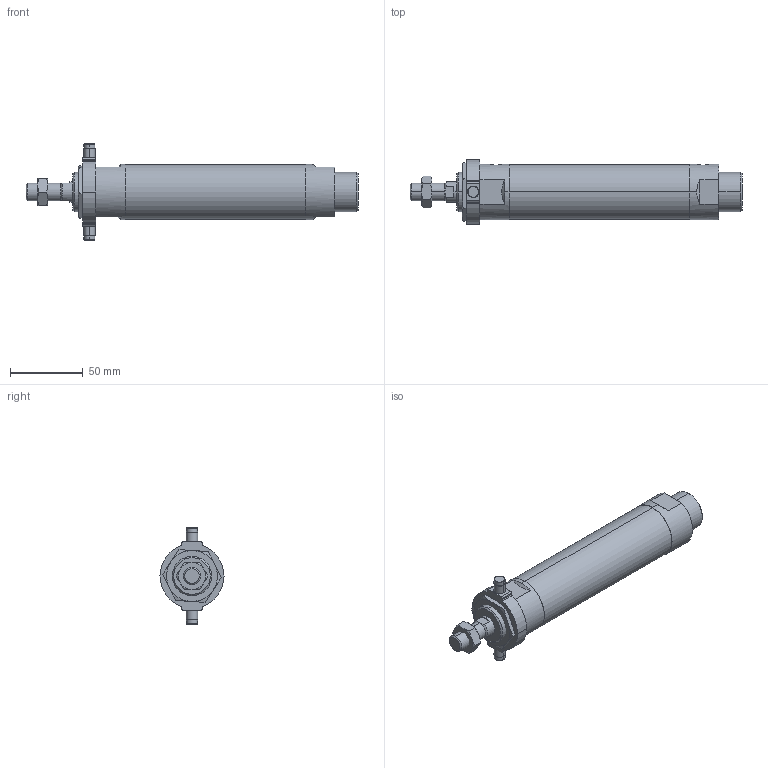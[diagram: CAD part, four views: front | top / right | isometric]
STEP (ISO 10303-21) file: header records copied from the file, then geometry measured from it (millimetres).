
FILE_DESCRIPTION (( 'STEP AP203' ), '1' );
FILE_NAME ('J#2-32-75-T.STEP', '2016-03-08T07:35:52', ( '' ), ( '' ), 'SwSTEP 2.0', 'SolidWorks 2014', '' );
FILE_SCHEMA (( 'CONFIG_CONTROL_DESIGN' ));
Length unit declared in the file: millimetre
Products named in the file (5): J#2-32-75-T; J#2-32-75; J#2-32-T
Assembly tree (4 placements, depth 2):
  J#2-32-75-T
    J#2-32-75
    (unnamed)
    (unnamed)
    J#2-32-T
Bounding box: 228 x 44 x 66 mm (x, y, z)
Volume: 214141.4 mm3; surface area: 34050.1 mm2
Topology: 4 solids, 4 shells, 133 faces, 303 edges, 183 vertices
Faces by surface type: cylinder 43, plane 43, torus 24, cone 23
Entity records: 4649 total; most frequent: CARTESIAN_POINT 1181, DIRECTION 640, ORIENTED_EDGE 598, EDGE_CURVE 299, AXIS2_PLACEMENT_3D 264, VERTEX_POINT 183, EDGE_LOOP 148, FACE_OUTER_BOUND 133
